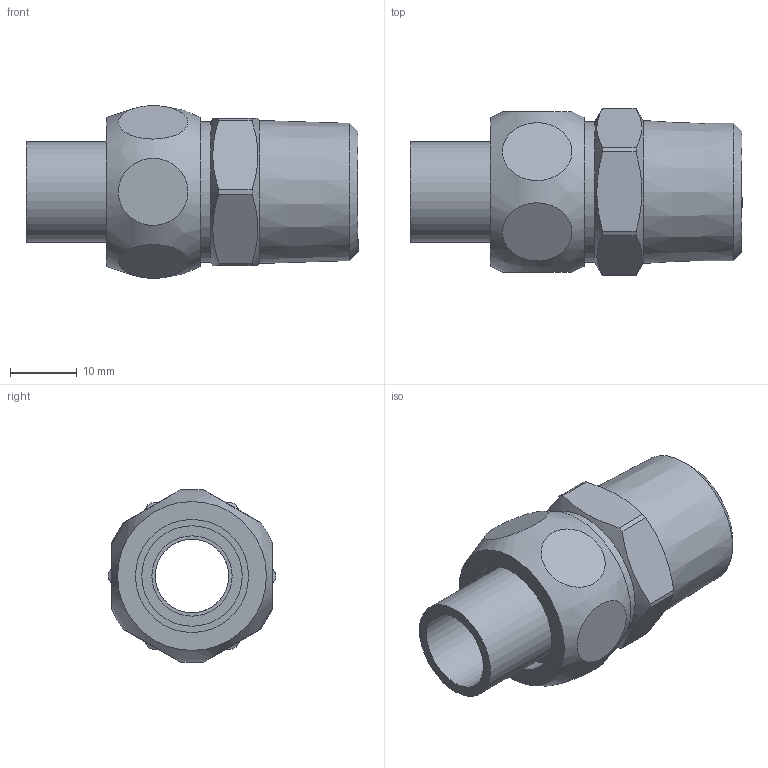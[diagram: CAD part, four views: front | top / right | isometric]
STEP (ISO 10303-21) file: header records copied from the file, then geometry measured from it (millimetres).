
FILE_DESCRIPTION(/* description */ (''),/* implementation_level */ '2;1');
FILE_NAME(/* name */ '\\lg50011\SANHA_LEGNICA\Engineering\Public\RYSUNKI\SANHA POLSKA\4343\Inventor\stp\143431212.stp',/* time_stamp */ '2021-10-06T07:23:22+02:00',/* author */ ('gomulka'),/* organization */ (''),/* preprocessor_version */ 'ST-DEVELOPER v18.1',/* originating_system */ 'Autodesk Inventor 2021',/* authorisation */ '');
FILE_SCHEMA (('AUTOMOTIVE_DESIGN { 1 0 10303 214 3 1 1 }'));
Length unit declared in the file: millimetre
Products named in the file (4): 143431212; 14381_12-12(1); R14374_12(2); 14386g_12-12(1)
Assembly tree (3 placements, depth 2):
  143431212
    14381_12-12(1)
    R14374_12(2)
    14386g_12-12(1)
Bounding box: 49.61 x 25 x 25.78 mm (x, y, z)
Volume: 12321.6 mm3; surface area: 7854.8 mm2
Topology: 3 solids, 3 shells, 45 faces, 125 edges, 95 vertices
Faces by surface type: plane 21, cylinder 15, cone 7, bspline 2
Full cylindrical faces by diameter (mm): 11 x2, 12 x1, 15 x2, 16.9 x1, 18.3 x1, 18.63 x1, 20.95 x1
Entity records: 1992 total; most frequent: CARTESIAN_POINT 666, DIRECTION 262, ORIENTED_EDGE 250, EDGE_CURVE 125, AXIS2_PLACEMENT_3D 117, VERTEX_POINT 95, CIRCLE 67, EDGE_LOOP 60
